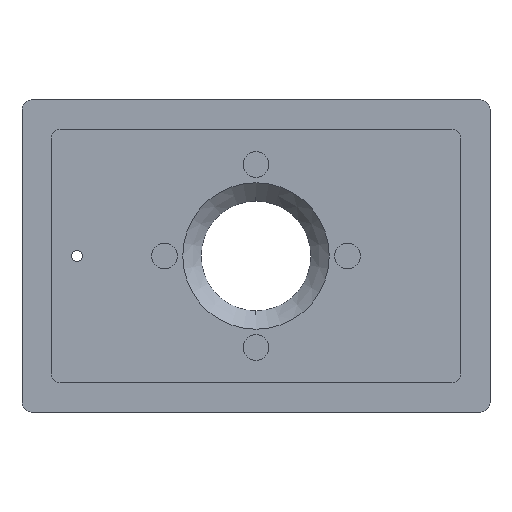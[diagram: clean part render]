
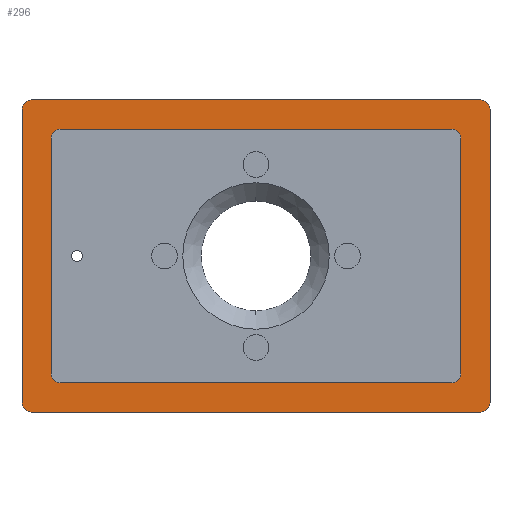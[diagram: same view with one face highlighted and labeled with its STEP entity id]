
A CAD part, front view. The second image highlights one B-rep face of the part: STEP entity #296.
In plain terms, the highlighted planar face has unit normal (0, -1, 0).
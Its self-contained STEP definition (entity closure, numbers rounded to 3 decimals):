
#11 = CARTESIAN_POINT ( 'NONE',  ( -53.4, 0., 32.1 ) ) ;
#12 = AXIS2_PLACEMENT_3D ( 'NONE', #218, #938, #308 ) ;
#15 = CARTESIAN_POINT ( 'NONE',  ( -61.4, 0., -40.1 ) ) ;
#19 = ORIENTED_EDGE ( 'NONE', *, *, #726, .T. ) ;
#40 = CARTESIAN_POINT ( 'NONE',  ( 55.9, 0., 32.1 ) ) ;
#72 = VERTEX_POINT ( 'NONE', #663 ) ;
#88 = DIRECTION ( 'NONE',  ( 0., -1., 0. ) ) ;
#91 = CARTESIAN_POINT ( 'NONE',  ( -63.9, 0., -40.1 ) ) ;
#92 = VERTEX_POINT ( 'NONE', #194 ) ;
#110 = CARTESIAN_POINT ( 'NONE',  ( -53.4, 0., 34.6 ) ) ;
#127 = LINE ( 'NONE', #222, #467 ) ;
#129 = EDGE_CURVE ( 'NONE', #367, #219, #1088, .T. ) ;
#152 = EDGE_CURVE ( 'NONE', #212, #810, #1028, .T. ) ;
#155 = VERTEX_POINT ( 'NONE', #862 ) ;
#170 = DIRECTION ( 'NONE',  ( 0., 1., 0. ) ) ;
#175 = AXIS2_PLACEMENT_3D ( 'NONE', #609, #1068, #845 ) ;
#177 = VERTEX_POINT ( 'NONE', #780 ) ;
#194 = CARTESIAN_POINT ( 'NONE',  ( 61.4, 0., 42.6 ) ) ;
#196 = ORIENTED_EDGE ( 'NONE', *, *, #648, .T. ) ;
#198 = CARTESIAN_POINT ( 'NONE',  ( -53.4, 0., -32.1 ) ) ;
#204 = VERTEX_POINT ( 'NONE', #91 ) ;
#212 = VERTEX_POINT ( 'NONE', #456 ) ;
#213 = EDGE_CURVE ( 'NONE', #204, #72, #1045, .T. ) ;
#214 = ORIENTED_EDGE ( 'NONE', *, *, #213, .T. ) ;
#218 = CARTESIAN_POINT ( 'NONE',  ( 53.4, 0., -32.1 ) ) ;
#219 = VERTEX_POINT ( 'NONE', #258 ) ;
#222 = CARTESIAN_POINT ( 'NONE',  ( -55.9, 0., 0. ) ) ;
#227 = EDGE_CURVE ( 'NONE', #177, #204, #1035, .T. ) ;
#235 = AXIS2_PLACEMENT_3D ( 'NONE', #925, #608, #700 ) ;
#258 = CARTESIAN_POINT ( 'NONE',  ( 63.9, 0., -40.1 ) ) ;
#259 = DIRECTION ( 'NONE',  ( 0., 1., 0. ) ) ;
#265 = DIRECTION ( 'NONE',  ( 0., 0., 1. ) ) ;
#274 = CARTESIAN_POINT ( 'NONE',  ( -53.4, 0., -34.6 ) ) ;
#289 = DIRECTION ( 'NONE',  ( 0., -1., 0. ) ) ;
#296 = ADVANCED_FACE ( 'NONE', ( #722, #720 ), #815, .F. ) ;
#303 = CARTESIAN_POINT ( 'NONE',  ( 63.9, 0., 0. ) ) ;
#308 = DIRECTION ( 'NONE',  ( 0., 0., 1. ) ) ;
#315 = ORIENTED_EDGE ( 'NONE', *, *, #1054, .T. ) ;
#323 = ORIENTED_EDGE ( 'NONE', *, *, #549, .T. ) ;
#336 = ORIENTED_EDGE ( 'NONE', *, *, #800, .F. ) ;
#345 = EDGE_CURVE ( 'NONE', #606, #816, #388, .T. ) ;
#356 = VECTOR ( 'NONE', #797, 1000. ) ;
#357 = CARTESIAN_POINT ( 'NONE',  ( 0., 0., 0. ) ) ;
#367 = VERTEX_POINT ( 'NONE', #682 ) ;
#368 = DIRECTION ( 'NONE',  ( 0., 0., -1. ) ) ;
#369 = CIRCLE ( 'NONE', #860, 2.5 ) ;
#379 = DIRECTION ( 'NONE',  ( 1., 0., 0. ) ) ;
#380 = LINE ( 'NONE', #1000, #356 ) ;
#388 = LINE ( 'NONE', #969, #721 ) ;
#416 = ORIENTED_EDGE ( 'NONE', *, *, #227, .T. ) ;
#426 = AXIS2_PLACEMENT_3D ( 'NONE', #198, #477, #982 ) ;
#429 = VERTEX_POINT ( 'NONE', #979 ) ;
#441 = AXIS2_PLACEMENT_3D ( 'NONE', #11, #170, #809 ) ;
#444 = ORIENTED_EDGE ( 'NONE', *, *, #152, .T. ) ;
#445 = VERTEX_POINT ( 'NONE', #1021 ) ;
#448 = ORIENTED_EDGE ( 'NONE', *, *, #129, .F. ) ;
#456 = CARTESIAN_POINT ( 'NONE',  ( -55.9, 0., 32.1 ) ) ;
#467 = VECTOR ( 'NONE', #709, 1000. ) ;
#477 = DIRECTION ( 'NONE',  ( 0., 1., 0. ) ) ;
#480 = CARTESIAN_POINT ( 'NONE',  ( -61.4, 0., 42.6 ) ) ;
#515 = EDGE_CURVE ( 'NONE', #367, #92, #576, .T. ) ;
#549 = EDGE_CURVE ( 'NONE', #823, #445, #651, .T. ) ;
#562 = CIRCLE ( 'NONE', #12, 2.5 ) ;
#576 = CIRCLE ( 'NONE', #175, 2.5 ) ;
#578 = CIRCLE ( 'NONE', #235, 2.5 ) ;
#579 = EDGE_CURVE ( 'NONE', #212, #445, #127, .T. ) ;
#606 = VERTEX_POINT ( 'NONE', #40 ) ;
#607 = ORIENTED_EDGE ( 'NONE', *, *, #1052, .T. ) ;
#608 = DIRECTION ( 'NONE',  ( 0., 1., 0. ) ) ;
#609 = CARTESIAN_POINT ( 'NONE',  ( 61.4, 0., 40.1 ) ) ;
#614 = ORIENTED_EDGE ( 'NONE', *, *, #345, .T. ) ;
#626 = VECTOR ( 'NONE', #917, 1000. ) ;
#638 = LINE ( 'NONE', #954, #626 ) ;
#646 = AXIS2_PLACEMENT_3D ( 'NONE', #15, #88, #869 ) ;
#648 = EDGE_CURVE ( 'NONE', #795, #177, #934, .T. ) ;
#651 = CIRCLE ( 'NONE', #426, 2.5 ) ;
#663 = CARTESIAN_POINT ( 'NONE',  ( -61.4, 0., -42.6 ) ) ;
#682 = CARTESIAN_POINT ( 'NONE',  ( 63.9, 0., 40.1 ) ) ;
#700 = DIRECTION ( 'NONE',  ( 0., 0., 1. ) ) ;
#705 = VECTOR ( 'NONE', #379, 1000. ) ;
#709 = DIRECTION ( 'NONE',  ( 0., 0., -1. ) ) ;
#711 = LINE ( 'NONE', #736, #705 ) ;
#719 = LINE ( 'NONE', #778, #724 ) ;
#720 = FACE_OUTER_BOUND ( 'NONE', #731, .T. ) ;
#721 = VECTOR ( 'NONE', #368, 1000. ) ;
#722 = FACE_BOUND ( 'NONE', #807, .T. ) ;
#724 = VECTOR ( 'NONE', #921, 1000. ) ;
#726 = EDGE_CURVE ( 'NONE', #810, #155, #719, .T. ) ;
#731 = EDGE_LOOP ( 'NONE', ( #416, #214, #607, #315, #448, #1033, #867, #196 ) ) ;
#732 = DIRECTION ( 'NONE',  ( 0., 0., -1. ) ) ;
#736 = CARTESIAN_POINT ( 'NONE',  ( 0., 0., -34.6 ) ) ;
#761 = CARTESIAN_POINT ( 'NONE',  ( 61.4, 0., -40.1 ) ) ;
#773 = ORIENTED_EDGE ( 'NONE', *, *, #579, .F. ) ;
#778 = CARTESIAN_POINT ( 'NONE',  ( 0., 0., 34.6 ) ) ;
#780 = CARTESIAN_POINT ( 'NONE',  ( -63.9, 0., 40.1 ) ) ;
#792 = DIRECTION ( 'NONE',  ( 0., 0., 1. ) ) ;
#795 = VERTEX_POINT ( 'NONE', #480 ) ;
#797 = DIRECTION ( 'NONE',  ( 1., 0., 0. ) ) ;
#800 = EDGE_CURVE ( 'NONE', #823, #429, #711, .T. ) ;
#807 = EDGE_LOOP ( 'NONE', ( #773, #444, #19, #843, #614, #1008, #336, #323 ) ) ;
#808 = DIRECTION ( 'NONE',  ( 0., 0., -1. ) ) ;
#809 = DIRECTION ( 'NONE',  ( 0., 0., 1. ) ) ;
#810 = VERTEX_POINT ( 'NONE', #110 ) ;
#812 = CARTESIAN_POINT ( 'NONE',  ( -63.9, 0., 0. ) ) ;
#815 = PLANE ( 'NONE',  #959 ) ;
#816 = VERTEX_POINT ( 'NONE', #903 ) ;
#823 = VERTEX_POINT ( 'NONE', #274 ) ;
#832 = CARTESIAN_POINT ( 'NONE',  ( -61.4, 0., 40.1 ) ) ;
#842 = CARTESIAN_POINT ( 'NONE',  ( 61.4, 0., -42.6 ) ) ;
#843 = ORIENTED_EDGE ( 'NONE', *, *, #906, .T. ) ;
#845 = DIRECTION ( 'NONE',  ( 0., 0., 1. ) ) ;
#858 = EDGE_CURVE ( 'NONE', #795, #92, #638, .T. ) ;
#860 = AXIS2_PLACEMENT_3D ( 'NONE', #761, #1007, #984 ) ;
#862 = CARTESIAN_POINT ( 'NONE',  ( 53.4, 0., 34.6 ) ) ;
#867 = ORIENTED_EDGE ( 'NONE', *, *, #858, .F. ) ;
#869 = DIRECTION ( 'NONE',  ( 0., 0., 1. ) ) ;
#903 = CARTESIAN_POINT ( 'NONE',  ( 55.9, 0., -32.1 ) ) ;
#906 = EDGE_CURVE ( 'NONE', #155, #606, #578, .T. ) ;
#912 = VERTEX_POINT ( 'NONE', #842 ) ;
#917 = DIRECTION ( 'NONE',  ( 1., 0., 0. ) ) ;
#921 = DIRECTION ( 'NONE',  ( 1., 0., 0. ) ) ;
#925 = CARTESIAN_POINT ( 'NONE',  ( 53.4, 0., 32.1 ) ) ;
#934 = CIRCLE ( 'NONE', #1017, 2.5 ) ;
#938 = DIRECTION ( 'NONE',  ( 0., 1., 0. ) ) ;
#944 = EDGE_CURVE ( 'NONE', #816, #429, #562, .T. ) ;
#954 = CARTESIAN_POINT ( 'NONE',  ( 0., 0., 42.6 ) ) ;
#959 = AXIS2_PLACEMENT_3D ( 'NONE', #357, #259, #265 ) ;
#969 = CARTESIAN_POINT ( 'NONE',  ( 55.9, 0., 0. ) ) ;
#979 = CARTESIAN_POINT ( 'NONE',  ( 53.4, 0., -34.6 ) ) ;
#982 = DIRECTION ( 'NONE',  ( 0., 0., 1. ) ) ;
#984 = DIRECTION ( 'NONE',  ( 0., 0., 1. ) ) ;
#1000 = CARTESIAN_POINT ( 'NONE',  ( 0., 0., -42.6 ) ) ;
#1007 = DIRECTION ( 'NONE',  ( 0., -1., 0. ) ) ;
#1008 = ORIENTED_EDGE ( 'NONE', *, *, #944, .T. ) ;
#1017 = AXIS2_PLACEMENT_3D ( 'NONE', #832, #289, #792 ) ;
#1021 = CARTESIAN_POINT ( 'NONE',  ( -55.9, 0., -32.1 ) ) ;
#1028 = CIRCLE ( 'NONE', #441, 2.5 ) ;
#1033 = ORIENTED_EDGE ( 'NONE', *, *, #515, .T. ) ;
#1035 = LINE ( 'NONE', #812, #1078 ) ;
#1040 = VECTOR ( 'NONE', #732, 1000. ) ;
#1045 = CIRCLE ( 'NONE', #646, 2.5 ) ;
#1052 = EDGE_CURVE ( 'NONE', #72, #912, #380, .T. ) ;
#1054 = EDGE_CURVE ( 'NONE', #912, #219, #369, .T. ) ;
#1068 = DIRECTION ( 'NONE',  ( 0., -1., 0. ) ) ;
#1078 = VECTOR ( 'NONE', #808, 1000. ) ;
#1088 = LINE ( 'NONE', #303, #1040 ) ;
